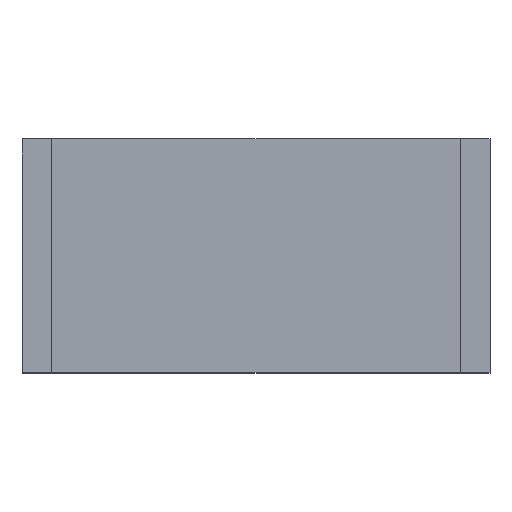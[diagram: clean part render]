
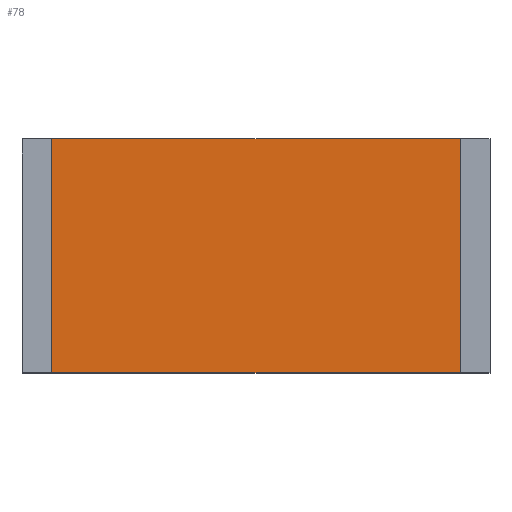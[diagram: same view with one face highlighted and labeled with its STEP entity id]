
A CAD part, top view. The second image highlights one B-rep face of the part: STEP entity #78.
In plain terms, the highlighted planar face has unit normal (0, 0, 1).
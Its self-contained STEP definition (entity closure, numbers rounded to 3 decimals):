
#78=ADVANCED_FACE('',(#312),#314,.T.);
#312=FACE_BOUND('',#313,.T.);
#313=EDGE_LOOP('',(#494,#495,#496,#497));
#314=PLANE('',#315);
#315=AXIS2_PLACEMENT_3D('',#316,#317,#318);
#316=CARTESIAN_POINT('',(-3.15,-1.6,0.95));
#317=DIRECTION('',(0.,0.,1.));
#318=DIRECTION('',(1.,0.,0.));
#494=ORIENTED_EDGE('',*,*,#614,.T.);
#495=ORIENTED_EDGE('',*,*,#615,.T.);
#496=ORIENTED_EDGE('',*,*,#616,.F.);
#497=ORIENTED_EDGE('',*,*,#617,.F.);
#614=EDGE_CURVE('',#674,#675,#676,.T.);
#615=EDGE_CURVE('',#675,#677,#678,.T.);
#616=EDGE_CURVE('',#679,#677,#680,.T.);
#617=EDGE_CURVE('',#674,#679,#681,.T.);
#674=VERTEX_POINT('',#774);
#675=VERTEX_POINT('',#775);
#676=LINE('',#776,#777);
#677=VERTEX_POINT('',#779);
#678=LINE('',#780,#781);
#679=VERTEX_POINT('',#783);
#680=LINE('',#784,#785);
#681=LINE('',#787,#788);
#774=CARTESIAN_POINT('',(-3.15,-1.6,0.95));
#775=CARTESIAN_POINT('',(3.15,-1.6,0.95));
#776=CARTESIAN_POINT('',(-3.15,-1.6,0.95));
#777=VECTOR('',#778,1.);
#778=DIRECTION('',(1.,0.,0.));
#779=CARTESIAN_POINT('',(3.15,1.6,0.95));
#780=CARTESIAN_POINT('',(3.15,-1.6,0.95));
#781=VECTOR('',#782,1.);
#782=DIRECTION('',(0.,1.,0.));
#783=CARTESIAN_POINT('',(-3.15,1.6,0.95));
#784=CARTESIAN_POINT('',(-3.15,1.6,0.95));
#785=VECTOR('',#786,1.);
#786=DIRECTION('',(1.,0.,0.));
#787=CARTESIAN_POINT('',(-3.15,-1.6,0.95));
#788=VECTOR('',#789,1.);
#789=DIRECTION('',(0.,1.,0.));
